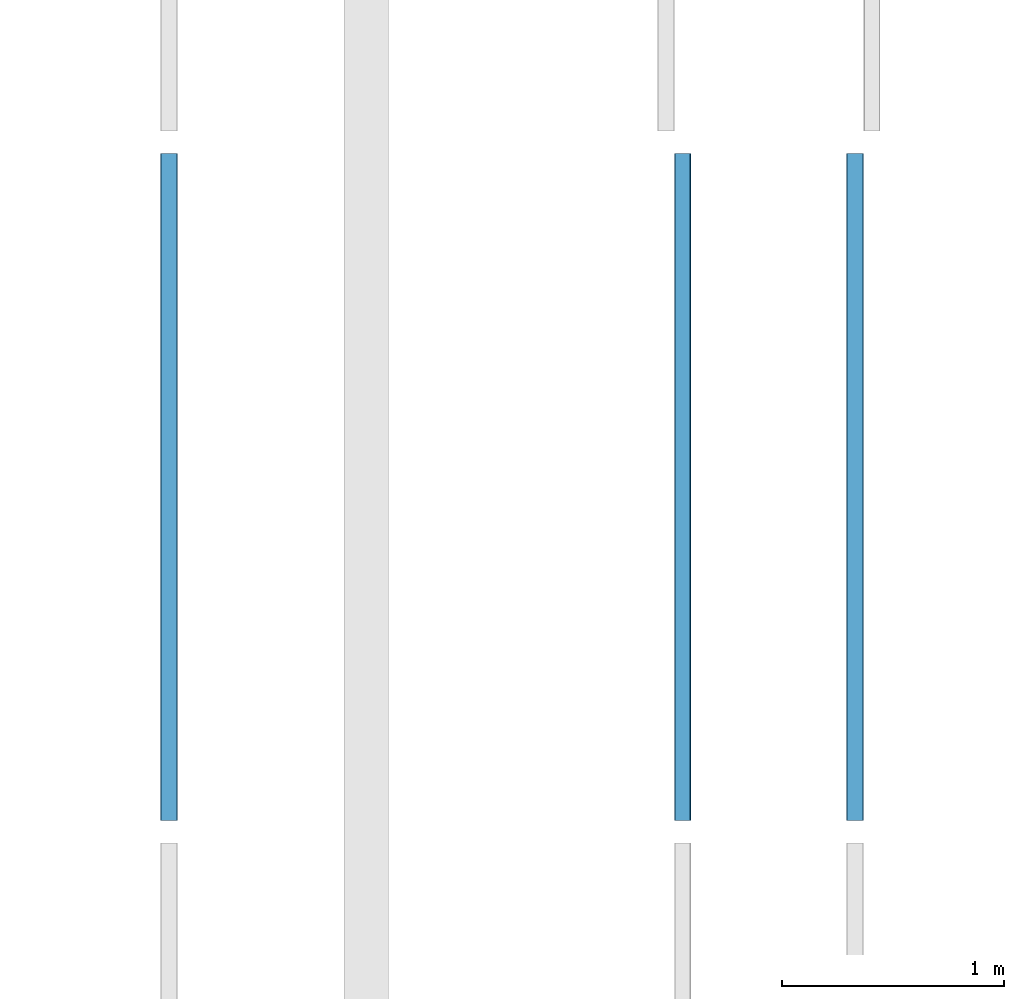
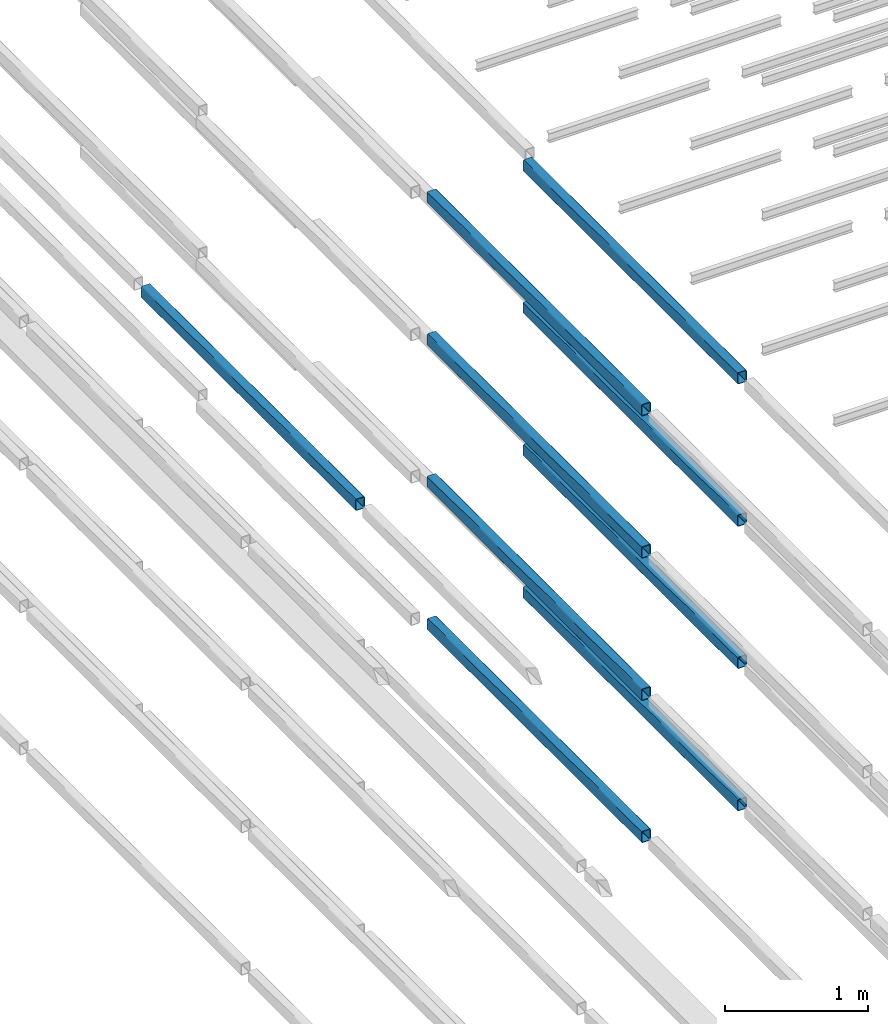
# One storey, part 92 of 290: 9 beams.
"""IFC2X3 building model written with IfcOpenShell, lengths in metres."""

from ifc_helpers import new_model, entity, si_unit, converted_unit, derived_unit, direction, frame, frame_2d, origin, place, context, subcontext, project, spatial, polyline, circle_curve, parameter, trimmed, segment, composite_curve, outline, extrude, material, type_object, element, save


model = new_model("IFC2X3")

# Units and contexts
model_context = context("Model", 3, precision=1e-05, world=origin(), true_north=direction((6.12303176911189e-17, 1.0)))
body_context = subcontext(model_context, "Body", "Model", "MODEL_VIEW")
ifc_project = project(units=[si_unit("LENGTHUNIT", "METRE"), si_unit("AREAUNIT", "SQUARE_METRE"), si_unit("VOLUMEUNIT", "CUBIC_METRE"), converted_unit("PLANEANGLEUNIT", "DEGREE", entity("IfcRatioMeasure", 0.0174532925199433), si_unit("PLANEANGLEUNIT", "RADIAN"), dimensions=[0, 0, 0, 0, 0, 0, 0]), si_unit("MASSUNIT", "GRAM", prefix="KILO"), derived_unit("MASSDENSITYUNIT", [(si_unit("MASSUNIT", "GRAM", prefix="KILO"), 1), (si_unit("LENGTHUNIT", "METRE"), -3)]), derived_unit("MOMENTOFINERTIAUNIT", [(si_unit("LENGTHUNIT", "METRE"), 4)]), si_unit("TIMEUNIT", "SECOND"), si_unit("FREQUENCYUNIT", "HERTZ"), si_unit("THERMODYNAMICTEMPERATUREUNIT", "DEGREE_CELSIUS"), derived_unit("THERMALTRANSMITTANCEUNIT", [(si_unit("MASSUNIT", "GRAM", prefix="KILO"), 1), (si_unit("THERMODYNAMICTEMPERATUREUNIT", "KELVIN"), -1), (si_unit("TIMEUNIT", "SECOND"), -3)]), derived_unit("VOLUMETRICFLOWRATEUNIT", [(si_unit("LENGTHUNIT", "METRE"), 3), (si_unit("TIMEUNIT", "SECOND"), -1)]), si_unit("ELECTRICCURRENTUNIT", "AMPERE"), si_unit("ELECTRICVOLTAGEUNIT", "VOLT"), si_unit("POWERUNIT", "WATT"), si_unit("FORCEUNIT", "NEWTON", prefix="KILO"), si_unit("ILLUMINANCEUNIT", "LUX"), si_unit("LUMINOUSFLUXUNIT", "LUMEN"), si_unit("LUMINOUSINTENSITYUNIT", "CANDELA"), derived_unit("USERDEFINED", [(si_unit("MASSUNIT", "GRAM", prefix="KILO"), -1), (si_unit("LENGTHUNIT", "METRE"), -2), (si_unit("TIMEUNIT", "SECOND"), 3), (si_unit("LUMINOUSFLUXUNIT", "LUMEN"), 1)]), derived_unit("LINEARVELOCITYUNIT", [(si_unit("LENGTHUNIT", "METRE"), 1), (si_unit("TIMEUNIT", "SECOND"), -1)]), si_unit("PRESSUREUNIT", "PASCAL"), derived_unit("USERDEFINED", [(si_unit("LENGTHUNIT", "METRE"), -2), (si_unit("MASSUNIT", "GRAM", prefix="KILO"), 1), (si_unit("TIMEUNIT", "SECOND"), -2)]), derived_unit("LINEARFORCEUNIT", [(si_unit("MASSUNIT", "GRAM", prefix="KILO"), 1), (si_unit("LENGTHUNIT", "METRE"), 1), (si_unit("TIMEUNIT", "SECOND"), -2), (si_unit("LENGTHUNIT", "METRE"), -1)]), derived_unit("PLANARFORCEUNIT", [(si_unit("MASSUNIT", "GRAM", prefix="KILO"), 1), (si_unit("LENGTHUNIT", "METRE"), 1), (si_unit("TIMEUNIT", "SECOND"), -2), (si_unit("LENGTHUNIT", "METRE"), -2)])], contexts=[model_context])

# Site, building, storey
site_placement = place(None, origin())
site = spatial("IfcSite", under=ifc_project, at=site_placement, Name="Default", CompositionType="ELEMENT")
building_placement = place(site_placement, origin())
building = spatial("IfcBuilding", under=site, at=building_placement, CompositionType="ELEMENT")
storey_placement = place(building_placement, frame((0.0, 0.0, 4.0)))
storey = spatial("IfcBuildingStorey", under=building, at=storey_placement, Name="01_OG", CompositionType="ELEMENT", Elevation=4.0)

# Beams
ifc_material = material(Name="Metall - Baustahl S235 blau")
beam_type = type_object("IfcBeamType", Name="RHS Träger (EN 10219-2):RHS 100 x 75 x 5", PredefinedType="NOTDEFINED")
beam_1_placement = place(storey_placement, frame((-178.465111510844, 42.6480889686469, 2.445), z_axis=(0.0, 0.0, 1.0), x_axis=(0.0, 1.0, 0.0)))
element("IfcBeam", 1, at=beam_1_placement, inside=storey, type_object=beam_type, material=ifc_material, Name="RHS Träger (EN 10219-2):RHS 100 x 75 x 5", ObjectType="RHS Träger (EN 10219-2):RHS 100 x 75 x 5", context=body_context, shape_type="SweptSolid", body=[
    extrude(outline(composite_curve([segment(polyline([(-0.0399999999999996, -0.0374999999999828), (0.0399999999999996, -0.0374999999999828)]), True, "CONTINUOUS"), segment(trimmed(circle_curve(frame_2d((0.0399999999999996, -0.0274999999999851), x_axis=(0.0, 1.0)), 0.01), [parameter(180.0)], [parameter(270.0)], True, "PARAMETER"), True, "CONTINUOUS"), segment(polyline([(0.0500000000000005, -0.0274999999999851), (0.0500000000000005, 0.0274999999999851)]), True, "CONTINUOUS"), segment(trimmed(circle_curve(frame_2d((0.0399999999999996, 0.0274999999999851), x_axis=(0.0, 1.0)), 0.01), [parameter(270.0)], [parameter(4.07110999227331e-13)], True, "PARAMETER"), True, "CONTINUOUS"), segment(polyline([(0.0399999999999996, 0.0375000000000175), (-0.0399999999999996, 0.0375000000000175)]), True, "CONTINUOUS"), segment(trimmed(circle_curve(frame_2d((-0.0399999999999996, 0.0274999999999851), x_axis=(0.0, 1.0)), 0.01), [parameter(360.0)], [parameter(90.0000000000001)], True, "PARAMETER"), True, "CONTINUOUS"), segment(polyline([(-0.0499999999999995, 0.0274999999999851), (-0.0499999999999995, -0.0274999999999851)]), True, "CONTINUOUS"), segment(trimmed(circle_curve(frame_2d((-0.0399999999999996, -0.0274999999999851), x_axis=(0.0, 1.0)), 0.01), [parameter(90.0000000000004)], [parameter(180.0)], True, "PARAMETER"), True, "CONTINUOUS")], self_intersect=False), holes=[composite_curve([segment(trimmed(circle_curve(frame_2d((-0.0400000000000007, 0.0274999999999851), x_axis=(0.0, 1.0)), 0.005), [parameter(360.0)], [parameter(89.9999999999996)], True, "PARAMETER"), False, "CONTINUOUS"), segment(polyline([(-0.0400000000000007, 0.0325000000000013), (0.0399999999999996, 0.0325000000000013)]), True, "CONTINUOUS"), segment(trimmed(circle_curve(frame_2d((0.0399999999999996, 0.0274999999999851), x_axis=(0.0, 1.0)), 0.005), [parameter(270.0)], [parameter(0.0)], True, "PARAMETER"), False, "CONTINUOUS"), segment(polyline([(0.0449999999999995, 0.0274999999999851), (0.0449999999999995, -0.0274999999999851)]), True, "CONTINUOUS"), segment(trimmed(circle_curve(frame_2d((0.0399999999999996, -0.0274999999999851), x_axis=(0.0, 1.0)), 0.005), [parameter(180.0)], [parameter(269.999999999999)], True, "PARAMETER"), False, "CONTINUOUS"), segment(polyline([(0.0399999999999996, -0.0325000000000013), (-0.0400000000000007, -0.0325000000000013)]), True, "CONTINUOUS"), segment(trimmed(circle_curve(frame_2d((-0.0400000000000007, -0.0274999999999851), x_axis=(0.0, 1.0)), 0.005), [parameter(90.0000000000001)], [parameter(180.0)], True, "PARAMETER"), False, "CONTINUOUS"), segment(polyline([(-0.0450000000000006, -0.0274999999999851), (-0.0450000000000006, 0.0274999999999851)]), True, "CONTINUOUS")], self_intersect=False)]), frame((0.000100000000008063, -0.0375000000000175, -0.0500000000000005), z_axis=(1.0, 0.0, 0.0), x_axis=(0.0, 0.0, -1.0)), (0.0, 0.0, 1.0), 2.99979999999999),
])
beam_2_placement = place(storey_placement, frame((-175.305111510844, 42.6480889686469, -1.2), z_axis=(0.0, 0.0, 1.0), x_axis=(0.0, 1.0, 0.0)))
element("IfcBeam", 2, at=beam_2_placement, inside=storey, type_object=beam_type, material=ifc_material, Name="RHS Träger (EN 10219-2):RHS 100 x 75 x 5", ObjectType="RHS Träger (EN 10219-2):RHS 100 x 75 x 5", context=body_context, shape_type="SweptSolid", body=[
    extrude(outline(composite_curve([segment(trimmed(circle_curve(frame_2d((-0.0274999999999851, -0.0400000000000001), x_axis=(1.0, 0.0)), 0.01), [parameter(180.0)], [parameter(270.0)], True, "PARAMETER"), True, "CONTINUOUS"), segment(polyline([(-0.0274999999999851, -0.05), (0.0274999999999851, -0.05)]), True, "CONTINUOUS"), segment(trimmed(circle_curve(frame_2d((0.0274999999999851, -0.0400000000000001), x_axis=(1.0, 0.0)), 0.01), [parameter(270.0)], [parameter(5.08888749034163e-14)], True, "PARAMETER"), True, "CONTINUOUS"), segment(polyline([(0.0375000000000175, -0.0400000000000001), (0.0375000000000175, 0.0400000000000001)]), True, "CONTINUOUS"), segment(trimmed(circle_curve(frame_2d((0.0274999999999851, 0.0400000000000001), x_axis=(1.0, 0.0)), 0.01), [parameter(360.0)], [parameter(89.9999999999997)], True, "PARAMETER"), True, "CONTINUOUS"), segment(polyline([(0.0274999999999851, 0.05), (-0.0274999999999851, 0.05)]), True, "CONTINUOUS"), segment(trimmed(circle_curve(frame_2d((-0.0274999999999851, 0.0400000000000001), x_axis=(1.0, 0.0)), 0.01), [parameter(90.0000000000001)], [parameter(180.0)], True, "PARAMETER"), True, "CONTINUOUS"), segment(polyline([(-0.0374999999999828, 0.0400000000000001), (-0.0374999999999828, -0.0400000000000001)]), True, "CONTINUOUS")], self_intersect=False), holes=[composite_curve([segment(polyline([(0.0274999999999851, -0.0450000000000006), (-0.0274999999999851, -0.0450000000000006)]), True, "CONTINUOUS"), segment(trimmed(circle_curve(frame_2d((-0.0274999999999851, -0.0400000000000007), x_axis=(1.0, 0.0)), 0.005), [parameter(180.0)], [parameter(270.0)], True, "PARAMETER"), False, "CONTINUOUS"), segment(polyline([(-0.0325000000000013, -0.0400000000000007), (-0.0325000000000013, 0.039999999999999)]), True, "CONTINUOUS"), segment(trimmed(circle_curve(frame_2d((-0.0274999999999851, 0.039999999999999), x_axis=(1.0, 0.0)), 0.005), [parameter(90.0000000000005)], [parameter(180.0)], True, "PARAMETER"), False, "CONTINUOUS"), segment(polyline([(-0.0274999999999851, 0.044999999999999), (0.0274999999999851, 0.044999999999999)]), True, "CONTINUOUS"), segment(trimmed(circle_curve(frame_2d((0.0274999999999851, 0.039999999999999), x_axis=(1.0, 0.0)), 0.005), [parameter(0.0)], [parameter(90.0000000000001)], True, "PARAMETER"), False, "CONTINUOUS"), segment(polyline([(0.0325000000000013, 0.039999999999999), (0.0325000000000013, -0.0400000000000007)]), True, "CONTINUOUS"), segment(trimmed(circle_curve(frame_2d((0.0274999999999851, -0.0400000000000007), x_axis=(1.0, 0.0)), 0.005), [parameter(270.0)], [parameter(4.07110999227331e-13)], True, "PARAMETER"), False, "CONTINUOUS")], self_intersect=False)]), frame((0.000100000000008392, 0.0375000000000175, -0.0500000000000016), z_axis=(1.0, 0.0, 0.0), x_axis=(0.0, -1.0, 0.0)), (0.0, 0.0, 1.0), 2.99979999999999),
])
beam_3_placement = place(storey_placement, frame((-175.305111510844, 42.6480889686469, 0.0150000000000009), z_axis=(0.0, 0.0, 1.0), x_axis=(0.0, 1.0, 0.0)))
element("IfcBeam", 3, at=beam_3_placement, inside=storey, type_object=beam_type, material=ifc_material, Name="RHS Träger (EN 10219-2):RHS 100 x 75 x 5", ObjectType="RHS Träger (EN 10219-2):RHS 100 x 75 x 5", context=body_context, shape_type="SweptSolid", body=[
    extrude(outline(composite_curve([segment(trimmed(circle_curve(frame_2d((-0.0274999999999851, -0.0400000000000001), x_axis=(1.0, 0.0)), 0.01), [parameter(180.0)], [parameter(270.0)], True, "PARAMETER"), True, "CONTINUOUS"), segment(polyline([(-0.0274999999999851, -0.05), (0.0274999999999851, -0.05)]), True, "CONTINUOUS"), segment(trimmed(circle_curve(frame_2d((0.0274999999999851, -0.0400000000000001), x_axis=(1.0, 0.0)), 0.01), [parameter(270.0)], [parameter(5.08888749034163e-14)], True, "PARAMETER"), True, "CONTINUOUS"), segment(polyline([(0.0375000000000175, -0.0400000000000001), (0.0375000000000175, 0.0400000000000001)]), True, "CONTINUOUS"), segment(trimmed(circle_curve(frame_2d((0.0274999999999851, 0.0400000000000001), x_axis=(1.0, 0.0)), 0.01), [parameter(360.0)], [parameter(89.9999999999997)], True, "PARAMETER"), True, "CONTINUOUS"), segment(polyline([(0.0274999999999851, 0.05), (-0.0274999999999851, 0.05)]), True, "CONTINUOUS"), segment(trimmed(circle_curve(frame_2d((-0.0274999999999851, 0.0400000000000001), x_axis=(1.0, 0.0)), 0.01), [parameter(90.0000000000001)], [parameter(180.0)], True, "PARAMETER"), True, "CONTINUOUS"), segment(polyline([(-0.0374999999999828, 0.0400000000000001), (-0.0374999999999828, -0.0400000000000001)]), True, "CONTINUOUS")], self_intersect=False), holes=[composite_curve([segment(polyline([(0.0274999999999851, -0.0450000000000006), (-0.0274999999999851, -0.0450000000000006)]), True, "CONTINUOUS"), segment(trimmed(circle_curve(frame_2d((-0.0274999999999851, -0.0400000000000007), x_axis=(1.0, 0.0)), 0.005), [parameter(180.0)], [parameter(270.0)], True, "PARAMETER"), False, "CONTINUOUS"), segment(polyline([(-0.0325000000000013, -0.0400000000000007), (-0.0325000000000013, 0.039999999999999)]), True, "CONTINUOUS"), segment(trimmed(circle_curve(frame_2d((-0.0274999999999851, 0.039999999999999), x_axis=(1.0, 0.0)), 0.005), [parameter(90.0000000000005)], [parameter(180.0)], True, "PARAMETER"), False, "CONTINUOUS"), segment(polyline([(-0.0274999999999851, 0.044999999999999), (0.0274999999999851, 0.044999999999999)]), True, "CONTINUOUS"), segment(trimmed(circle_curve(frame_2d((0.0274999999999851, 0.039999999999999), x_axis=(1.0, 0.0)), 0.005), [parameter(0.0)], [parameter(90.0000000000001)], True, "PARAMETER"), False, "CONTINUOUS"), segment(polyline([(0.0325000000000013, 0.039999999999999), (0.0325000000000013, -0.0400000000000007)]), True, "CONTINUOUS"), segment(trimmed(circle_curve(frame_2d((0.0274999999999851, -0.0400000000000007), x_axis=(1.0, 0.0)), 0.005), [parameter(270.0)], [parameter(4.07110999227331e-13)], True, "PARAMETER"), False, "CONTINUOUS")], self_intersect=False)]), frame((0.000100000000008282, 0.0375000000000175, -0.0500000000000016), z_axis=(1.0, 0.0, 0.0), x_axis=(0.0, -1.0, 0.0)), (0.0, 0.0, 1.0), 2.99979999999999),
])
beam_4_placement = place(storey_placement, frame((-175.305111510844, 42.6480889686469, 1.23), z_axis=(0.0, 0.0, 1.0), x_axis=(0.0, 1.0, 0.0)))
element("IfcBeam", 4, at=beam_4_placement, inside=storey, type_object=beam_type, material=ifc_material, Name="RHS Träger (EN 10219-2):RHS 100 x 75 x 5", ObjectType="RHS Träger (EN 10219-2):RHS 100 x 75 x 5", context=body_context, shape_type="SweptSolid", body=[
    extrude(outline(composite_curve([segment(trimmed(circle_curve(frame_2d((-0.0274999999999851, -0.0399999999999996), x_axis=(1.0, 0.0)), 0.01), [parameter(180.0)], [parameter(270.0)], True, "PARAMETER"), True, "CONTINUOUS"), segment(polyline([(-0.0274999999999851, -0.0499999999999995), (0.0274999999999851, -0.0499999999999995)]), True, "CONTINUOUS"), segment(trimmed(circle_curve(frame_2d((0.0274999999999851, -0.0399999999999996), x_axis=(1.0, 0.0)), 0.01), [parameter(270.0)], [parameter(5.08888749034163e-14)], True, "PARAMETER"), True, "CONTINUOUS"), segment(polyline([(0.0375000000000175, -0.0399999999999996), (0.0375000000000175, 0.0399999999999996)]), True, "CONTINUOUS"), segment(trimmed(circle_curve(frame_2d((0.0274999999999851, 0.0399999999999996), x_axis=(1.0, 0.0)), 0.01), [parameter(360.0)], [parameter(89.9999999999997)], True, "PARAMETER"), True, "CONTINUOUS"), segment(polyline([(0.0274999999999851, 0.0500000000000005), (-0.0274999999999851, 0.0500000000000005)]), True, "CONTINUOUS"), segment(trimmed(circle_curve(frame_2d((-0.0274999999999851, 0.0399999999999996), x_axis=(1.0, 0.0)), 0.01), [parameter(90.0000000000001)], [parameter(180.0)], True, "PARAMETER"), True, "CONTINUOUS"), segment(polyline([(-0.0374999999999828, 0.0399999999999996), (-0.0374999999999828, -0.0399999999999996)]), True, "CONTINUOUS")], self_intersect=False), holes=[composite_curve([segment(polyline([(0.0274999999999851, -0.0450000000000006), (-0.0274999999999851, -0.0450000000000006)]), True, "CONTINUOUS"), segment(trimmed(circle_curve(frame_2d((-0.0274999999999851, -0.0400000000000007), x_axis=(1.0, 0.0)), 0.005), [parameter(180.0)], [parameter(270.0)], True, "PARAMETER"), False, "CONTINUOUS"), segment(polyline([(-0.0325000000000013, -0.0400000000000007), (-0.0325000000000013, 0.0399999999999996)]), True, "CONTINUOUS"), segment(trimmed(circle_curve(frame_2d((-0.0274999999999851, 0.0399999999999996), x_axis=(1.0, 0.0)), 0.005), [parameter(90.0000000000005)], [parameter(180.0)], True, "PARAMETER"), False, "CONTINUOUS"), segment(polyline([(-0.0274999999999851, 0.0449999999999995), (0.0274999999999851, 0.0449999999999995)]), True, "CONTINUOUS"), segment(trimmed(circle_curve(frame_2d((0.0274999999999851, 0.0399999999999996), x_axis=(1.0, 0.0)), 0.005), [parameter(0.0)], [parameter(90.0000000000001)], True, "PARAMETER"), False, "CONTINUOUS"), segment(polyline([(0.0325000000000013, 0.0399999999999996), (0.0325000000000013, -0.0400000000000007)]), True, "CONTINUOUS"), segment(trimmed(circle_curve(frame_2d((0.0274999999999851, -0.0400000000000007), x_axis=(1.0, 0.0)), 0.005), [parameter(270.0)], [parameter(4.07110999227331e-13)], True, "PARAMETER"), False, "CONTINUOUS")], self_intersect=False)]), frame((0.000100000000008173, 0.0375000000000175, -0.0500000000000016), z_axis=(1.0, 0.0, 0.0), x_axis=(0.0, -1.0, 0.0)), (0.0, 0.0, 1.0), 2.99979999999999),
])
beam_5_placement = place(storey_placement, frame((-175.305111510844, 42.6480889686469, 2.445), z_axis=(0.0, 0.0, 1.0), x_axis=(0.0, 1.0, 0.0)))
element("IfcBeam", 5, at=beam_5_placement, inside=storey, type_object=beam_type, material=ifc_material, Name="RHS Träger (EN 10219-2):RHS 100 x 75 x 5", ObjectType="RHS Träger (EN 10219-2):RHS 100 x 75 x 5", context=body_context, shape_type="SweptSolid", body=[
    extrude(outline(composite_curve([segment(trimmed(circle_curve(frame_2d((-0.0274999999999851, -0.0399999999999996), x_axis=(1.0, 0.0)), 0.01), [parameter(180.0)], [parameter(270.0)], True, "PARAMETER"), True, "CONTINUOUS"), segment(polyline([(-0.0274999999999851, -0.0499999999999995), (0.0274999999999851, -0.0499999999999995)]), True, "CONTINUOUS"), segment(trimmed(circle_curve(frame_2d((0.0274999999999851, -0.0399999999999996), x_axis=(1.0, 0.0)), 0.01), [parameter(270.0)], [parameter(5.08888749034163e-14)], True, "PARAMETER"), True, "CONTINUOUS"), segment(polyline([(0.0375000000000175, -0.0399999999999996), (0.0375000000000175, 0.0399999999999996)]), True, "CONTINUOUS"), segment(trimmed(circle_curve(frame_2d((0.0274999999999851, 0.0399999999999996), x_axis=(1.0, 0.0)), 0.01), [parameter(360.0)], [parameter(89.9999999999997)], True, "PARAMETER"), True, "CONTINUOUS"), segment(polyline([(0.0274999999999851, 0.0500000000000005), (-0.0274999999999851, 0.0500000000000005)]), True, "CONTINUOUS"), segment(trimmed(circle_curve(frame_2d((-0.0274999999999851, 0.0399999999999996), x_axis=(1.0, 0.0)), 0.01), [parameter(90.0000000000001)], [parameter(180.0)], True, "PARAMETER"), True, "CONTINUOUS"), segment(polyline([(-0.0374999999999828, 0.0399999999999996), (-0.0374999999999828, -0.0399999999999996)]), True, "CONTINUOUS")], self_intersect=False), holes=[composite_curve([segment(polyline([(0.0274999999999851, -0.0450000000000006), (-0.0274999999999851, -0.0450000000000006)]), True, "CONTINUOUS"), segment(trimmed(circle_curve(frame_2d((-0.0274999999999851, -0.0400000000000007), x_axis=(1.0, 0.0)), 0.005), [parameter(180.0)], [parameter(270.0)], True, "PARAMETER"), False, "CONTINUOUS"), segment(polyline([(-0.0325000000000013, -0.0400000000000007), (-0.0325000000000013, 0.0399999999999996)]), True, "CONTINUOUS"), segment(trimmed(circle_curve(frame_2d((-0.0274999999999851, 0.0399999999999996), x_axis=(1.0, 0.0)), 0.005), [parameter(90.0000000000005)], [parameter(180.0)], True, "PARAMETER"), False, "CONTINUOUS"), segment(polyline([(-0.0274999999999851, 0.0449999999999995), (0.0274999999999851, 0.0449999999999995)]), True, "CONTINUOUS"), segment(trimmed(circle_curve(frame_2d((0.0274999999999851, 0.0399999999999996), x_axis=(1.0, 0.0)), 0.005), [parameter(0.0)], [parameter(90.0000000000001)], True, "PARAMETER"), False, "CONTINUOUS"), segment(polyline([(0.0325000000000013, 0.0399999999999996), (0.0325000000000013, -0.0400000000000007)]), True, "CONTINUOUS"), segment(trimmed(circle_curve(frame_2d((0.0274999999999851, -0.0400000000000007), x_axis=(1.0, 0.0)), 0.005), [parameter(270.0)], [parameter(4.07110999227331e-13)], True, "PARAMETER"), False, "CONTINUOUS")], self_intersect=False)]), frame((0.000100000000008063, 0.0375000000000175, -0.0500000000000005), z_axis=(1.0, 0.0, 0.0), x_axis=(0.0, -1.0, 0.0)), (0.0, 0.0, 1.0), 2.99979999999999),
])
beam_6_placement = place(storey_placement, frame((-176.155111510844, 42.6480889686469, -1.2), z_axis=(0.0, 0.0, 1.0), x_axis=(0.0, 1.0, 0.0)))
element("IfcBeam", 6, at=beam_6_placement, inside=storey, type_object=beam_type, material=ifc_material, Name="RHS Träger (EN 10219-2):RHS 100 x 75 x 5", ObjectType="RHS Träger (EN 10219-2):RHS 100 x 75 x 5", context=body_context, shape_type="SweptSolid", body=[
    extrude(outline(composite_curve([segment(polyline([(-0.0400000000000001, -0.0374999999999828), (0.0400000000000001, -0.0374999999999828)]), True, "CONTINUOUS"), segment(trimmed(circle_curve(frame_2d((0.0400000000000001, -0.0274999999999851), x_axis=(0.0, 1.0)), 0.01), [parameter(180.0)], [parameter(270.0)], True, "PARAMETER"), True, "CONTINUOUS"), segment(polyline([(0.05, -0.0274999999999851), (0.05, 0.0274999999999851)]), True, "CONTINUOUS"), segment(trimmed(circle_curve(frame_2d((0.0400000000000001, 0.0274999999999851), x_axis=(0.0, 1.0)), 0.01), [parameter(270.0)], [parameter(4.07110999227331e-13)], True, "PARAMETER"), True, "CONTINUOUS"), segment(polyline([(0.0400000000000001, 0.0375000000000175), (-0.0400000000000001, 0.0375000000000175)]), True, "CONTINUOUS"), segment(trimmed(circle_curve(frame_2d((-0.0400000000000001, 0.0274999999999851), x_axis=(0.0, 1.0)), 0.01), [parameter(360.0)], [parameter(90.0000000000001)], True, "PARAMETER"), True, "CONTINUOUS"), segment(polyline([(-0.05, 0.0274999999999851), (-0.05, -0.0274999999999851)]), True, "CONTINUOUS"), segment(trimmed(circle_curve(frame_2d((-0.0400000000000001, -0.0274999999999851), x_axis=(0.0, 1.0)), 0.01), [parameter(90.0000000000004)], [parameter(180.0)], True, "PARAMETER"), True, "CONTINUOUS")], self_intersect=False), holes=[composite_curve([segment(trimmed(circle_curve(frame_2d((-0.0400000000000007, 0.0274999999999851), x_axis=(0.0, 1.0)), 0.005), [parameter(360.0)], [parameter(89.9999999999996)], True, "PARAMETER"), False, "CONTINUOUS"), segment(polyline([(-0.0400000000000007, 0.0325000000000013), (0.039999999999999, 0.0325000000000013)]), True, "CONTINUOUS"), segment(trimmed(circle_curve(frame_2d((0.039999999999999, 0.0274999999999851), x_axis=(0.0, 1.0)), 0.005), [parameter(270.0)], [parameter(0.0)], True, "PARAMETER"), False, "CONTINUOUS"), segment(polyline([(0.044999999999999, 0.0274999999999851), (0.044999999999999, -0.0274999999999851)]), True, "CONTINUOUS"), segment(trimmed(circle_curve(frame_2d((0.039999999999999, -0.0274999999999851), x_axis=(0.0, 1.0)), 0.005), [parameter(180.0)], [parameter(269.999999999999)], True, "PARAMETER"), False, "CONTINUOUS"), segment(polyline([(0.039999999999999, -0.0325000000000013), (-0.0400000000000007, -0.0325000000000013)]), True, "CONTINUOUS"), segment(trimmed(circle_curve(frame_2d((-0.0400000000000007, -0.0274999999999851), x_axis=(0.0, 1.0)), 0.005), [parameter(90.0000000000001)], [parameter(180.0)], True, "PARAMETER"), False, "CONTINUOUS"), segment(polyline([(-0.0450000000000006, -0.0274999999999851), (-0.0450000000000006, 0.0274999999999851)]), True, "CONTINUOUS")], self_intersect=False)]), frame((0.000100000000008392, -0.0375000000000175, -0.0500000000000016), z_axis=(1.0, 0.0, 0.0), x_axis=(0.0, 0.0, -1.0)), (0.0, 0.0, 1.0), 2.99979999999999),
])
beam_7_placement = place(storey_placement, frame((-176.155111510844, 42.6480889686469, 0.0150000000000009), z_axis=(0.0, 0.0, 1.0), x_axis=(0.0, 1.0, 0.0)))
element("IfcBeam", 7, at=beam_7_placement, inside=storey, type_object=beam_type, material=ifc_material, Name="RHS Träger (EN 10219-2):RHS 100 x 75 x 5", ObjectType="RHS Träger (EN 10219-2):RHS 100 x 75 x 5", context=body_context, shape_type="SweptSolid", body=[
    extrude(outline(composite_curve([segment(polyline([(-0.0400000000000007, -0.0374999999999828), (0.0399999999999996, -0.0374999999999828)]), True, "CONTINUOUS"), segment(trimmed(circle_curve(frame_2d((0.0399999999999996, -0.0274999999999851), x_axis=(0.0, 1.0)), 0.01), [parameter(180.0)], [parameter(270.0)], True, "PARAMETER"), True, "CONTINUOUS"), segment(polyline([(0.0499999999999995, -0.0274999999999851), (0.0499999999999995, 0.0274999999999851)]), True, "CONTINUOUS"), segment(trimmed(circle_curve(frame_2d((0.0399999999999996, 0.0274999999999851), x_axis=(0.0, 1.0)), 0.01), [parameter(270.0)], [parameter(4.07110999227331e-13)], True, "PARAMETER"), True, "CONTINUOUS"), segment(polyline([(0.0399999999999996, 0.0375000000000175), (-0.0400000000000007, 0.0375000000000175)]), True, "CONTINUOUS"), segment(trimmed(circle_curve(frame_2d((-0.0400000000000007, 0.0274999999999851), x_axis=(0.0, 1.0)), 0.01), [parameter(360.0)], [parameter(90.0000000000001)], True, "PARAMETER"), True, "CONTINUOUS"), segment(polyline([(-0.0500000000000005, 0.0274999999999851), (-0.0500000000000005, -0.0274999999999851)]), True, "CONTINUOUS"), segment(trimmed(circle_curve(frame_2d((-0.0400000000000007, -0.0274999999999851), x_axis=(0.0, 1.0)), 0.01), [parameter(90.0000000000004)], [parameter(180.0)], True, "PARAMETER"), True, "CONTINUOUS")], self_intersect=False), holes=[composite_curve([segment(trimmed(circle_curve(frame_2d((-0.0400000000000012, 0.0274999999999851), x_axis=(0.0, 1.0)), 0.005), [parameter(360.0)], [parameter(89.9999999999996)], True, "PARAMETER"), False, "CONTINUOUS"), segment(polyline([(-0.0400000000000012, 0.0325000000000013), (0.0399999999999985, 0.0325000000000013)]), True, "CONTINUOUS"), segment(trimmed(circle_curve(frame_2d((0.0399999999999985, 0.0274999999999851), x_axis=(0.0, 1.0)), 0.005), [parameter(270.0)], [parameter(0.0)], True, "PARAMETER"), False, "CONTINUOUS"), segment(polyline([(0.0449999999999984, 0.0274999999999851), (0.0449999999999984, -0.0274999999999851)]), True, "CONTINUOUS"), segment(trimmed(circle_curve(frame_2d((0.0399999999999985, -0.0274999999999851), x_axis=(0.0, 1.0)), 0.005), [parameter(180.0)], [parameter(269.999999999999)], True, "PARAMETER"), False, "CONTINUOUS"), segment(polyline([(0.0399999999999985, -0.0325000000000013), (-0.0400000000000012, -0.0325000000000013)]), True, "CONTINUOUS"), segment(trimmed(circle_curve(frame_2d((-0.0400000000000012, -0.0274999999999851), x_axis=(0.0, 1.0)), 0.005), [parameter(90.0000000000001)], [parameter(180.0)], True, "PARAMETER"), False, "CONTINUOUS"), segment(polyline([(-0.0450000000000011, -0.0274999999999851), (-0.0450000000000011, 0.0274999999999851)]), True, "CONTINUOUS")], self_intersect=False)]), frame((0.000100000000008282, -0.0375000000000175, -0.0500000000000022), z_axis=(1.0, 0.0, 0.0), x_axis=(0.0, 0.0, -1.0)), (0.0, 0.0, 1.0), 2.99979999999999),
])
beam_8_placement = place(storey_placement, frame((-176.155111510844, 42.6480889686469, 1.23), z_axis=(0.0, 0.0, 1.0), x_axis=(0.0, 1.0, 0.0)))
element("IfcBeam", 8, at=beam_8_placement, inside=storey, type_object=beam_type, material=ifc_material, Name="RHS Träger (EN 10219-2):RHS 100 x 75 x 5", ObjectType="RHS Träger (EN 10219-2):RHS 100 x 75 x 5", context=body_context, shape_type="SweptSolid", body=[
    extrude(outline(composite_curve([segment(polyline([(-0.0399999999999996, -0.0374999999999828), (0.0399999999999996, -0.0374999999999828)]), True, "CONTINUOUS"), segment(trimmed(circle_curve(frame_2d((0.0399999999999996, -0.0274999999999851), x_axis=(0.0, 1.0)), 0.01), [parameter(180.0)], [parameter(270.0)], True, "PARAMETER"), True, "CONTINUOUS"), segment(polyline([(0.0500000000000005, -0.0274999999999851), (0.0500000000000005, 0.0274999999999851)]), True, "CONTINUOUS"), segment(trimmed(circle_curve(frame_2d((0.0399999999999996, 0.0274999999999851), x_axis=(0.0, 1.0)), 0.01), [parameter(270.0)], [parameter(4.07110999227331e-13)], True, "PARAMETER"), True, "CONTINUOUS"), segment(polyline([(0.0399999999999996, 0.0375000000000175), (-0.0399999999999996, 0.0375000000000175)]), True, "CONTINUOUS"), segment(trimmed(circle_curve(frame_2d((-0.0399999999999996, 0.0274999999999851), x_axis=(0.0, 1.0)), 0.01), [parameter(360.0)], [parameter(90.0000000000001)], True, "PARAMETER"), True, "CONTINUOUS"), segment(polyline([(-0.0499999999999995, 0.0274999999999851), (-0.0499999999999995, -0.0274999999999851)]), True, "CONTINUOUS"), segment(trimmed(circle_curve(frame_2d((-0.0399999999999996, -0.0274999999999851), x_axis=(0.0, 1.0)), 0.01), [parameter(90.0000000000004)], [parameter(180.0)], True, "PARAMETER"), True, "CONTINUOUS")], self_intersect=False), holes=[composite_curve([segment(trimmed(circle_curve(frame_2d((-0.0400000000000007, 0.0274999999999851), x_axis=(0.0, 1.0)), 0.005), [parameter(360.0)], [parameter(89.9999999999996)], True, "PARAMETER"), False, "CONTINUOUS"), segment(polyline([(-0.0400000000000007, 0.0325000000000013), (0.0399999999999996, 0.0325000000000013)]), True, "CONTINUOUS"), segment(trimmed(circle_curve(frame_2d((0.0399999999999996, 0.0274999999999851), x_axis=(0.0, 1.0)), 0.005), [parameter(270.0)], [parameter(0.0)], True, "PARAMETER"), False, "CONTINUOUS"), segment(polyline([(0.0449999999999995, 0.0274999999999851), (0.0449999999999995, -0.0274999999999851)]), True, "CONTINUOUS"), segment(trimmed(circle_curve(frame_2d((0.0399999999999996, -0.0274999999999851), x_axis=(0.0, 1.0)), 0.005), [parameter(180.0)], [parameter(269.999999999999)], True, "PARAMETER"), False, "CONTINUOUS"), segment(polyline([(0.0399999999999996, -0.0325000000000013), (-0.0400000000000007, -0.0325000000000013)]), True, "CONTINUOUS"), segment(trimmed(circle_curve(frame_2d((-0.0400000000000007, -0.0274999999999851), x_axis=(0.0, 1.0)), 0.005), [parameter(90.0000000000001)], [parameter(180.0)], True, "PARAMETER"), False, "CONTINUOUS"), segment(polyline([(-0.0450000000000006, -0.0274999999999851), (-0.0450000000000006, 0.0274999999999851)]), True, "CONTINUOUS")], self_intersect=False)]), frame((0.000100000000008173, -0.0375000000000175, -0.0500000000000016), z_axis=(1.0, 0.0, 0.0), x_axis=(0.0, 0.0, -1.0)), (0.0, 0.0, 1.0), 2.99979999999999),
])
beam_9_placement = place(storey_placement, frame((-176.155111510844, 42.6480889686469, 2.445), z_axis=(0.0, 0.0, 1.0), x_axis=(0.0, 1.0, 0.0)))
element("IfcBeam", 9, at=beam_9_placement, inside=storey, type_object=beam_type, material=ifc_material, Name="RHS Träger (EN 10219-2):RHS 100 x 75 x 5", ObjectType="RHS Träger (EN 10219-2):RHS 100 x 75 x 5", context=body_context, shape_type="SweptSolid", body=[
    extrude(outline(composite_curve([segment(polyline([(-0.0399999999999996, -0.0374999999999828), (0.0399999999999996, -0.0374999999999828)]), True, "CONTINUOUS"), segment(trimmed(circle_curve(frame_2d((0.0399999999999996, -0.0274999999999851), x_axis=(0.0, 1.0)), 0.01), [parameter(180.0)], [parameter(270.0)], True, "PARAMETER"), True, "CONTINUOUS"), segment(polyline([(0.0500000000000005, -0.0274999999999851), (0.0500000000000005, 0.0274999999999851)]), True, "CONTINUOUS"), segment(trimmed(circle_curve(frame_2d((0.0399999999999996, 0.0274999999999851), x_axis=(0.0, 1.0)), 0.01), [parameter(270.0)], [parameter(4.07110999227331e-13)], True, "PARAMETER"), True, "CONTINUOUS"), segment(polyline([(0.0399999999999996, 0.0375000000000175), (-0.0399999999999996, 0.0375000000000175)]), True, "CONTINUOUS"), segment(trimmed(circle_curve(frame_2d((-0.0399999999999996, 0.0274999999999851), x_axis=(0.0, 1.0)), 0.01), [parameter(360.0)], [parameter(90.0000000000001)], True, "PARAMETER"), True, "CONTINUOUS"), segment(polyline([(-0.0499999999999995, 0.0274999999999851), (-0.0499999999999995, -0.0274999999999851)]), True, "CONTINUOUS"), segment(trimmed(circle_curve(frame_2d((-0.0399999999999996, -0.0274999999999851), x_axis=(0.0, 1.0)), 0.01), [parameter(90.0000000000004)], [parameter(180.0)], True, "PARAMETER"), True, "CONTINUOUS")], self_intersect=False), holes=[composite_curve([segment(trimmed(circle_curve(frame_2d((-0.0400000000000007, 0.0274999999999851), x_axis=(0.0, 1.0)), 0.005), [parameter(360.0)], [parameter(89.9999999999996)], True, "PARAMETER"), False, "CONTINUOUS"), segment(polyline([(-0.0400000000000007, 0.0325000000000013), (0.0399999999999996, 0.0325000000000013)]), True, "CONTINUOUS"), segment(trimmed(circle_curve(frame_2d((0.0399999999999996, 0.0274999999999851), x_axis=(0.0, 1.0)), 0.005), [parameter(270.0)], [parameter(0.0)], True, "PARAMETER"), False, "CONTINUOUS"), segment(polyline([(0.0449999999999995, 0.0274999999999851), (0.0449999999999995, -0.0274999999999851)]), True, "CONTINUOUS"), segment(trimmed(circle_curve(frame_2d((0.0399999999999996, -0.0274999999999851), x_axis=(0.0, 1.0)), 0.005), [parameter(180.0)], [parameter(269.999999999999)], True, "PARAMETER"), False, "CONTINUOUS"), segment(polyline([(0.0399999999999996, -0.0325000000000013), (-0.0400000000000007, -0.0325000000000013)]), True, "CONTINUOUS"), segment(trimmed(circle_curve(frame_2d((-0.0400000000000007, -0.0274999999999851), x_axis=(0.0, 1.0)), 0.005), [parameter(90.0000000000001)], [parameter(180.0)], True, "PARAMETER"), False, "CONTINUOUS"), segment(polyline([(-0.0450000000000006, -0.0274999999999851), (-0.0450000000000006, 0.0274999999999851)]), True, "CONTINUOUS")], self_intersect=False)]), frame((0.000100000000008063, -0.0375000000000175, -0.0500000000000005), z_axis=(1.0, 0.0, 0.0), x_axis=(0.0, 0.0, -1.0)), (0.0, 0.0, 1.0), 2.99979999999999),
])

save(model, "model.ifc")
